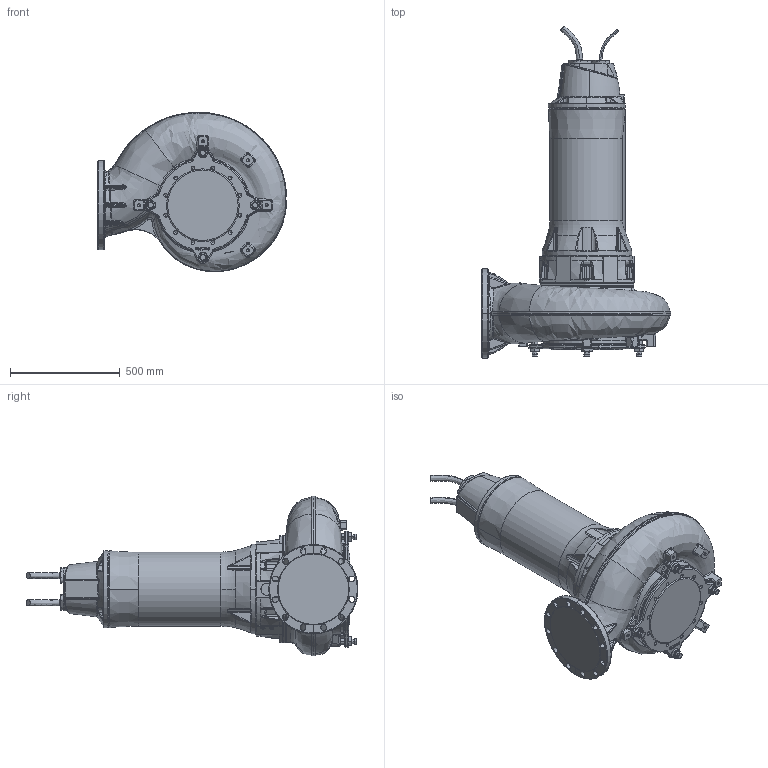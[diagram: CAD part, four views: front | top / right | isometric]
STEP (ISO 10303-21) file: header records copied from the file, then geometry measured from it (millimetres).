
FILE_DESCRIPTION (( 'STEP AP214' ), '1' );
FILE_NAME ('PE4_XFP250J-CB2_MOTOR OK_B_NG2.STEP', '2017-02-16T09:55:43', ( '' ), ( '' ), 'SwSTEP 2.0', 'SolidWorks 2017', '' );
FILE_SCHEMA (( 'AUTOMOTIVE_DESIGN' ));
Length unit declared in the file: millimetre
Products named in the file (1): PE4_XFP250J-CB2_MOTOR OK_B_NG2
Bounding box: 860.93 x 1509.08 x 724.85 mm (x, y, z)
Volume: 197021566.6 mm3; surface area: 2948217.9 mm2
Topology: 1 solids, 12 shells, 2384 faces, 6022 edges, 3638 vertices
Faces by surface type: bspline 738, plane 606, cylinder 545, cone 286, torus 172, sphere 37
Entity records: 167213 total; most frequent: CARTESIAN_POINT 90109, ORIENTED_EDGE 11896, DIRECTION 8953, EDGE_CURVE 5948, VERTEX_POINT 3638, AXIS2_PLACEMENT_3D 3588, EDGE_LOOP 2508, UNCERTAINTY_MEASURE_WITH_UNIT 2387
